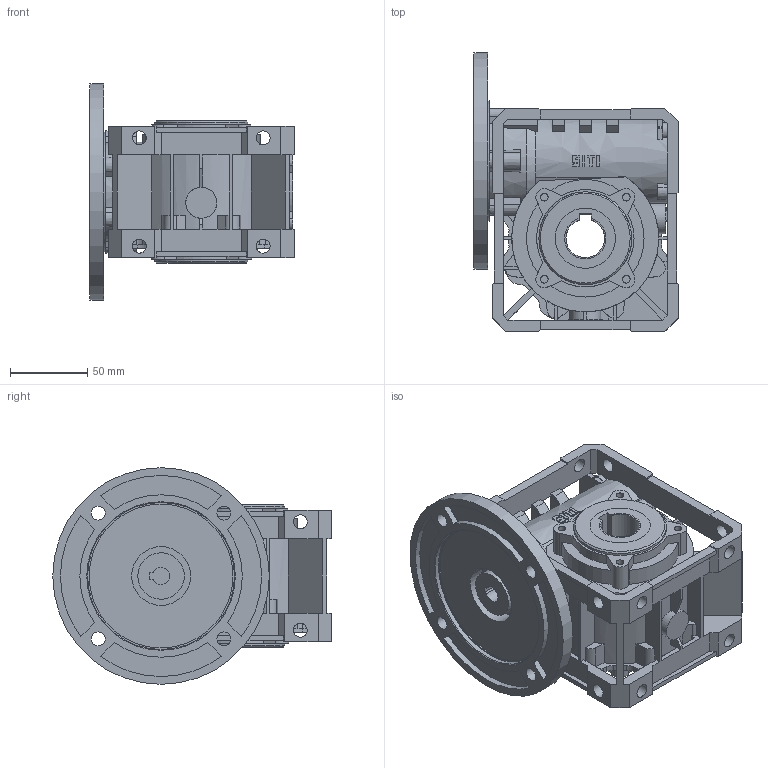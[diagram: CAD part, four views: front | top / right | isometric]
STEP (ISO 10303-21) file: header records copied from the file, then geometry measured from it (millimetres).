
FILE_DESCRIPTION (( 'STEP AP203' ), '1' );
FILE_NAME ('MU50 PAM 63 B5.STEP', '2016-03-10T08:32:08', ( 'm.piscopiello' ), ( '' ), 'SwSTEP 2.0', 'SolidWorks 2015', '' );
FILE_SCHEMA (( 'CONFIG_CONTROL_DESIGN' ));
Length unit declared in the file: millimetre
Products named in the file (1): MU50 PAM 63 B5
Bounding box: 132 x 180 x 140 mm (x, y, z)
Volume: 999534.8 mm3; surface area: 172233.8 mm2
Topology: 1 solids, 7 shells, 740 faces, 2185 edges, 1436 vertices
Faces by surface type: plane 489, cylinder 202, cone 49
Full cylindrical faces by diameter (mm): 4.5 x4, 4.917 x10, 5.37 x4, 9 x18, 20 x1, 30 x1, 38 x1, 60 x2, 78 x1, 93 x1, 95 x1, 140 x1
Entity records: 27195 total; most frequent: CARTESIAN_POINT 7594, ORIENTED_EDGE 4208, DIRECTION 3871, EDGE_CURVE 2104, VERTEX_POINT 1410, VECTOR 1325, LINE 1325, AXIS2_PLACEMENT_3D 1273
